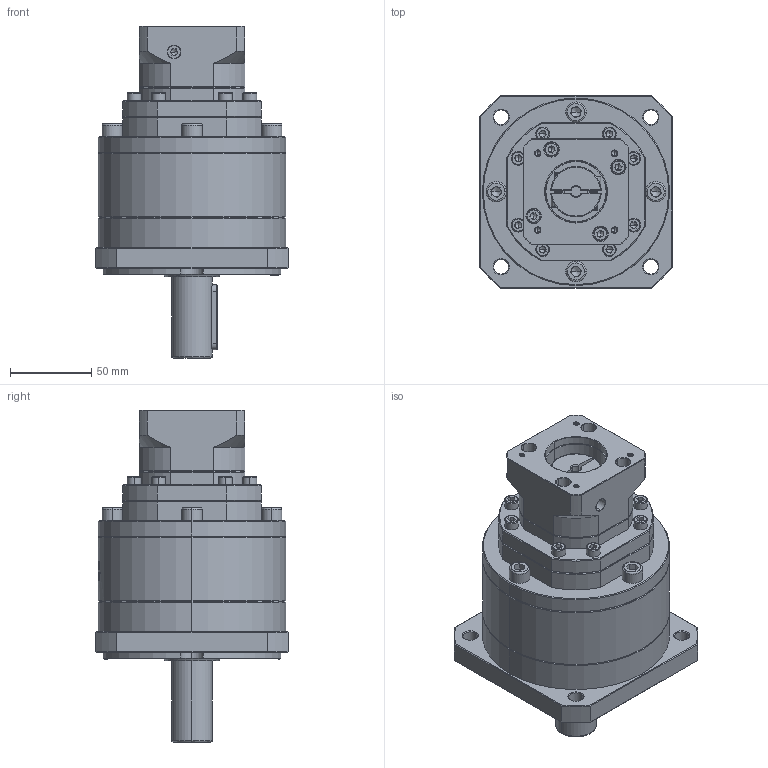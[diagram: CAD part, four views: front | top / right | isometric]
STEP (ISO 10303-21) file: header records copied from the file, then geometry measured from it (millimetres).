
FILE_DESCRIPTION (( 'STEP AP214' ), '1' );
FILE_NAME ('ZF120A-D25-L3-P2-6.35-38.1-47.14X47.14-M4.step', '2023-08-27T06:29:44', ( '' ), ( '' ), 'SwSTEP 2.0', 'SolidWorks 2016', '' );
FILE_SCHEMA (( 'AUTOMOTIVE_DESIGN' ));
Length unit declared in the file: millimetre
Products named in the file (1): ZF120A-D25-L3-P2-6.35-38.1-47.14X47.14-M4
Bounding box: 118 x 118 x 204 mm (x, y, z)
Volume: 1215159.7 mm3; surface area: 116323.3 mm2
Topology: 7 solids, 7 shells, 2348 faces, 6255 edges, 4017 vertices
Faces by surface type: plane 1179, bspline 435, cylinder 411, cone 301, torus 22
Entity records: 122774 total; most frequent: CARTESIAN_POINT 43870, ORIENTED_EDGE 12402, DIRECTION 9194, EDGE_CURVE 6201, VERTEX_POINT 4017, VECTOR 3312, LINE 3312, AXIS2_PLACEMENT_3D 2941
